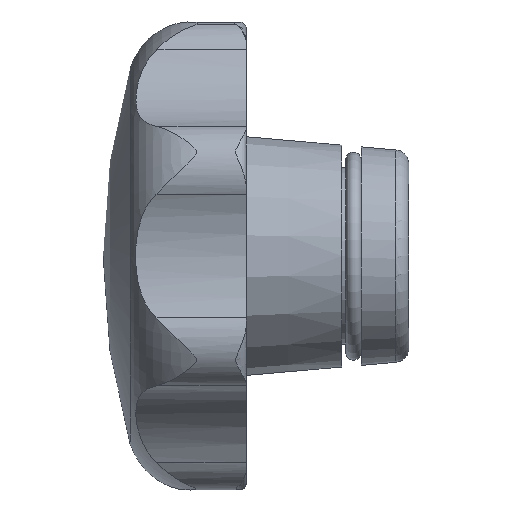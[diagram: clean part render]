
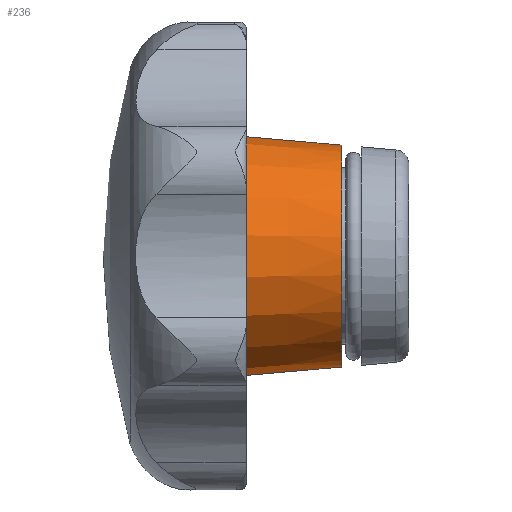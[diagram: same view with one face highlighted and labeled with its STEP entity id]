
A CAD part, left-side view. The second image highlights one B-rep face of the part: STEP entity #236.
In plain terms, the highlighted conical face has half-angle 5 degrees and reference radius 13.109 mm.
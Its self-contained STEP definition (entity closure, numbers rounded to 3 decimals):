
#236 = ADVANCED_FACE( '', ( #491, #492 ), #493, .T. );
#491 = FACE_BOUND( '', #874, .T. );
#492 = FACE_OUTER_BOUND( '', #875, .T. );
#493 = CONICAL_SURFACE( '', #876, 13.109, 0.087 );
#874 = EDGE_LOOP( '', ( #1595 ) );
#875 = EDGE_LOOP( '', ( #1596 ) );
#876 = AXIS2_PLACEMENT_3D( '', #1597, #1598, #1599 );
#1595 = ORIENTED_EDGE( '', *, *, #2628, .F. );
#1596 = ORIENTED_EDGE( '', *, *, #2629, .T. );
#1597 = CARTESIAN_POINT( '', ( 0., 24.053, 0. ) );
#1598 = DIRECTION( '', ( 0., 1., 0. ) );
#1599 = DIRECTION( '', ( 0., 0., 1. ) );
#2628 = EDGE_CURVE( '', #3222, #3222, #3223, .T. );
#2629 = EDGE_CURVE( '', #3224, #3224, #3225, .T. );
#3222 = VERTEX_POINT( '', #4864 );
#3223 = CIRCLE( '', #4865, 11.617 );
#3224 = VERTEX_POINT( '', #4866 );
#3225 = CIRCLE( '', #4867, 13.109 );
#4864 = CARTESIAN_POINT( '', ( 0., 7., -11.617 ) );
#4865 = AXIS2_PLACEMENT_3D( '', #5625, #5626, #5627 );
#4866 = CARTESIAN_POINT( '', ( 0., 24.053, -13.109 ) );
#4867 = AXIS2_PLACEMENT_3D( '', #5628, #5629, #5630 );
#5625 = CARTESIAN_POINT( '', ( 0., 7., 0. ) );
#5626 = DIRECTION( '', ( 0., -1., 0. ) );
#5627 = DIRECTION( '', ( 0., 0., -1. ) );
#5628 = CARTESIAN_POINT( '', ( 0., 24.053, 0. ) );
#5629 = DIRECTION( '', ( 0., -1., 0. ) );
#5630 = DIRECTION( '', ( 0., 0., -1. ) );
